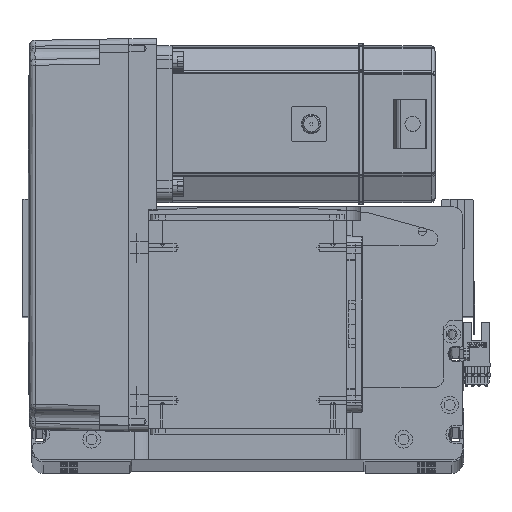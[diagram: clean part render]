
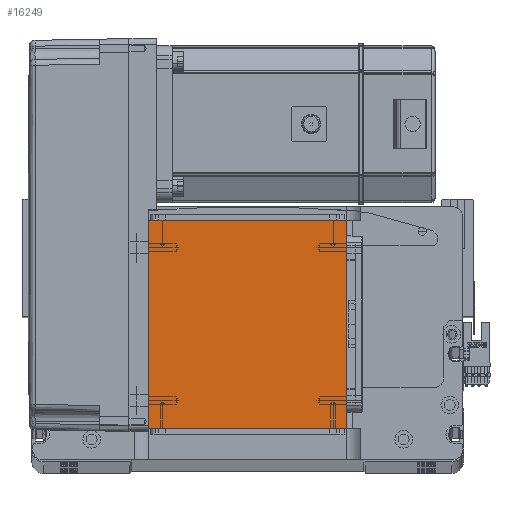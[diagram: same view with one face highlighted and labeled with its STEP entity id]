
A CAD part, top view. The second image highlights one B-rep face of the part: STEP entity #16249.
In plain terms, the highlighted planar face has unit normal (0, 0, 1).
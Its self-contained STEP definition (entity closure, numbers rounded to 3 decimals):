
#703 = LINE ( 'NONE', #33047, #30852 ) ;
#5403 = CARTESIAN_POINT ( 'NONE',  ( -50.5, 122., 115. ) ) ;
#10632 = ORIENTED_EDGE ( 'NONE', *, *, #58960, .T. ) ;
#12838 = CARTESIAN_POINT ( 'NONE',  ( 0., 0., 115. ) ) ;
#13964 = EDGE_CURVE ( 'NONE', #46911, #56373, #14781, .T. ) ;
#14283 = CARTESIAN_POINT ( 'NONE',  ( -50.5, 16., 115. ) ) ;
#14347 = VERTEX_POINT ( 'NONE', #37543 ) ;
#14781 = LINE ( 'NONE', #38997, #37807 ) ;
#16249 = ADVANCED_FACE ( 'NONE', ( #41870 ), #40813, .T. ) ;
#17543 = DIRECTION ( 'NONE',  ( 0., -1., 0. ) ) ;
#18061 = DIRECTION ( 'NONE',  ( 0., 0., 1. ) ) ;
#19254 = DIRECTION ( 'NONE',  ( -1., 0., 0. ) ) ;
#19364 = DIRECTION ( 'NONE',  ( 0., 1., 0. ) ) ;
#20146 = VECTOR ( 'NONE', #19254, 1000. ) ;
#20764 = EDGE_LOOP ( 'NONE', ( #38469, #28535, #34289, #10632 ) ) ;
#22365 = CARTESIAN_POINT ( 'NONE',  ( -50.5, 122., 115. ) ) ;
#23008 = LINE ( 'NONE', #5403, #20146 ) ;
#26697 = DIRECTION ( 'NONE',  ( 1., 0., 0. ) ) ;
#28535 = ORIENTED_EDGE ( 'NONE', *, *, #13964, .T. ) ;
#30852 = VECTOR ( 'NONE', #19364, 1000. ) ;
#30878 = VERTEX_POINT ( 'NONE', #41407 ) ;
#32863 = EDGE_CURVE ( 'NONE', #30878, #46911, #56982, .T. ) ;
#33047 = CARTESIAN_POINT ( 'NONE',  ( 50.5, 122., 115. ) ) ;
#34251 = EDGE_CURVE ( 'NONE', #56373, #14347, #703, .T. ) ;
#34289 = ORIENTED_EDGE ( 'NONE', *, *, #34251, .T. ) ;
#34394 = DIRECTION ( 'NONE',  ( 1., 0., 0. ) ) ;
#37543 = CARTESIAN_POINT ( 'NONE',  ( 50.5, 122., 115. ) ) ;
#37807 = VECTOR ( 'NONE', #34394, 1000. ) ;
#38469 = ORIENTED_EDGE ( 'NONE', *, *, #32863, .T. ) ;
#38997 = CARTESIAN_POINT ( 'NONE',  ( -50.5, 16., 115. ) ) ;
#40813 = PLANE ( 'NONE',  #55816 ) ;
#41407 = CARTESIAN_POINT ( 'NONE',  ( -50.5, 122., 115. ) ) ;
#41870 = FACE_OUTER_BOUND ( 'NONE', #20764, .T. ) ;
#44759 = VECTOR ( 'NONE', #17543, 1000. ) ;
#46911 = VERTEX_POINT ( 'NONE', #14283 ) ;
#55619 = CARTESIAN_POINT ( 'NONE',  ( 50.5, 16., 115. ) ) ;
#55816 = AXIS2_PLACEMENT_3D ( 'NONE', #12838, #18061, #26697 ) ;
#56373 = VERTEX_POINT ( 'NONE', #55619 ) ;
#56982 = LINE ( 'NONE', #22365, #44759 ) ;
#58960 = EDGE_CURVE ( 'NONE', #14347, #30878, #23008, .T. ) ;
